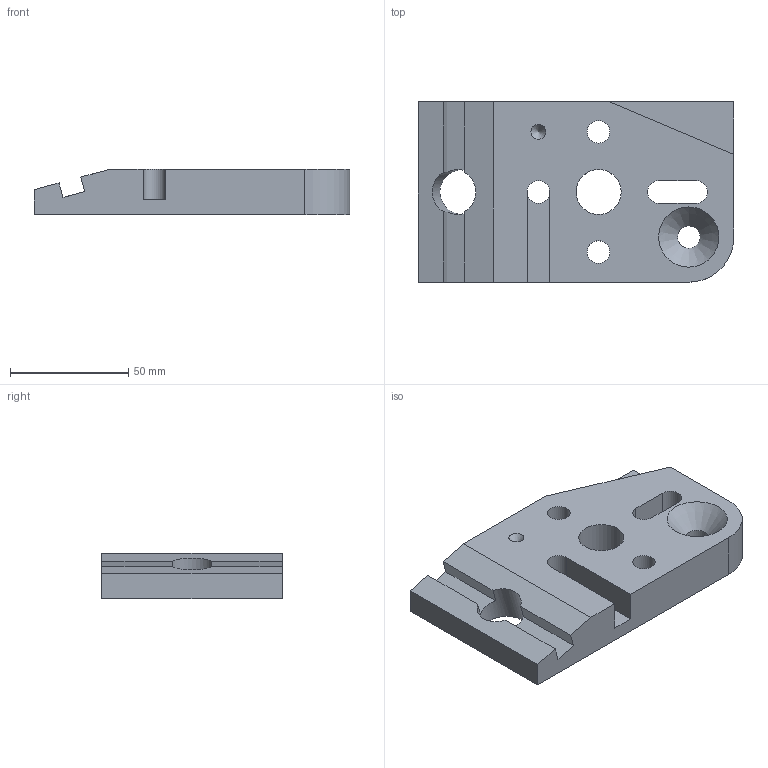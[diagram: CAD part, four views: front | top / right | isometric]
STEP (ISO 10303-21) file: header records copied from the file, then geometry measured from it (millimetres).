
FILE_DESCRIPTION (( 'STEP AP203' ), '1' );
FILE_NAME ('DemoBlock_inch_nosplit.STEP', '2024-07-12T18:26:20', ( '' ), ( '' ), 'SwSTEP 2.0', 'SolidWorks 2022', '' );
FILE_SCHEMA (( 'CONFIG_CONTROL_DESIGN' ));
Length unit declared in the file: inch
Products named in the file (1): DemoBlock_inch_nosplit
Bounding box: 133.35 x 76.2 x 19.05 mm (x, y, z)
Volume: 145641.2 mm3; surface area: 31419 mm2
Topology: 1 solids, 1 shells, 33 faces, 96 edges, 64 vertices
Faces by surface type: plane 22, cylinder 9, cone 2
Full cylindrical faces by diameter (mm): 9.525 x4, 19.05 x2
Entity records: 1137 total; most frequent: CARTESIAN_POINT 186, DIRECTION 176, ORIENTED_EDGE 170, EDGE_CURVE 85, VERTEX_POINT 61, VECTOR 60, LINE 60, AXIS2_PLACEMENT_3D 58
